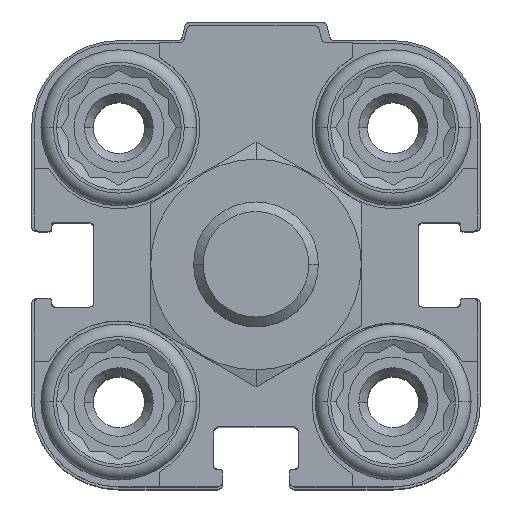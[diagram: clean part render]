
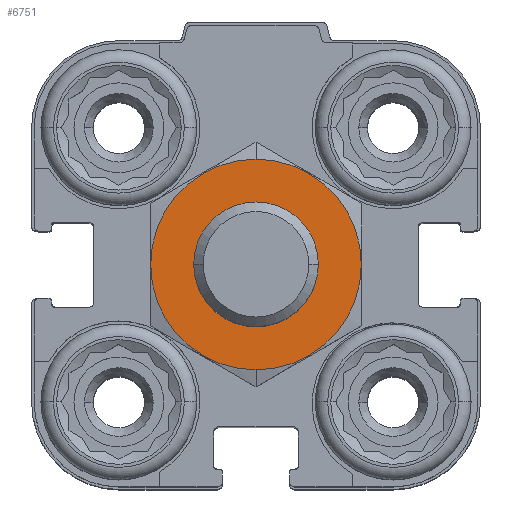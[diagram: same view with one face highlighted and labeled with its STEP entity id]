
A CAD part, top view. The second image highlights one B-rep face of the part: STEP entity #6751.
In plain terms, the highlighted planar face has unit normal (0, 0, 1).
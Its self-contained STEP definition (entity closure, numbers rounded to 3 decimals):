
#689 = EDGE_CURVE ( 'NONE', #7979, #7246, #20287, .T. ) ;
#1109 = EDGE_CURVE ( 'NONE', #4879, #10581, #6277, .T. ) ;
#1960 = EDGE_CURVE ( 'NONE', #10581, #4879, #6177, .T. ) ;
#2868 = AXIS2_PLACEMENT_3D ( 'NONE', #10316, #8781, #3966 ) ;
#3364 = CARTESIAN_POINT ( 'NONE',  ( 0., -8.45, 13.5 ) ) ;
#3454 = AXIS2_PLACEMENT_3D ( 'NONE', #13695, #5793, #7240 ) ;
#3966 = DIRECTION ( 'NONE',  ( 0., -1., 0. ) ) ;
#3995 = ORIENTED_EDGE ( 'NONE', *, *, #12526, .F. ) ;
#4879 = VERTEX_POINT ( 'NONE', #6260 ) ;
#5047 = DIRECTION ( 'NONE',  ( 0., 0., -1. ) ) ;
#5793 = DIRECTION ( 'NONE',  ( 0., 0., -1. ) ) ;
#5907 = CIRCLE ( 'NONE', #13466, 8.45 ) ;
#6177 = CIRCLE ( 'NONE', #17667, 5. ) ;
#6260 = CARTESIAN_POINT ( 'NONE',  ( 0., 5., 13.5 ) ) ;
#6277 = CIRCLE ( 'NONE', #12170, 5. ) ;
#6751 = ADVANCED_FACE ( 'NONE', ( #10305, #19792 ), #16590, .F. ) ;
#7240 = DIRECTION ( 'NONE',  ( 0., -1., 0. ) ) ;
#7246 = VERTEX_POINT ( 'NONE', #3364 ) ;
#7979 = VERTEX_POINT ( 'NONE', #18146 ) ;
#8227 = DIRECTION ( 'NONE',  ( 0., -1., 0. ) ) ;
#8559 = DIRECTION ( 'NONE',  ( 0., 0., -1. ) ) ;
#8781 = DIRECTION ( 'NONE',  ( 0., 0., -1. ) ) ;
#9283 = EDGE_LOOP ( 'NONE', ( #17451, #9602 ) ) ;
#9602 = ORIENTED_EDGE ( 'NONE', *, *, #1960, .T. ) ;
#10305 = FACE_OUTER_BOUND ( 'NONE', #10515, .T. ) ;
#10316 = CARTESIAN_POINT ( 'NONE',  ( 0., 0., 13.5 ) ) ;
#10515 = EDGE_LOOP ( 'NONE', ( #3995, #15366 ) ) ;
#10581 = VERTEX_POINT ( 'NONE', #12011 ) ;
#11634 = CARTESIAN_POINT ( 'NONE',  ( 0., 0., 13.5 ) ) ;
#11741 = DIRECTION ( 'NONE',  ( 0., 0., -1. ) ) ;
#12011 = CARTESIAN_POINT ( 'NONE',  ( 0., -5., 13.5 ) ) ;
#12170 = AXIS2_PLACEMENT_3D ( 'NONE', #11634, #8559, #19570 ) ;
#12526 = EDGE_CURVE ( 'NONE', #7246, #7979, #5907, .T. ) ;
#13284 = DIRECTION ( 'NONE',  ( 0., -1., 0. ) ) ;
#13466 = AXIS2_PLACEMENT_3D ( 'NONE', #14724, #11741, #13284 ) ;
#13695 = CARTESIAN_POINT ( 'NONE',  ( 0., 0., 13.5 ) ) ;
#14724 = CARTESIAN_POINT ( 'NONE',  ( 0., 0., 13.5 ) ) ;
#15366 = ORIENTED_EDGE ( 'NONE', *, *, #689, .F. ) ;
#16362 = CARTESIAN_POINT ( 'NONE',  ( 0., 0., 13.5 ) ) ;
#16590 = PLANE ( 'NONE',  #3454 ) ;
#17451 = ORIENTED_EDGE ( 'NONE', *, *, #1109, .T. ) ;
#17667 = AXIS2_PLACEMENT_3D ( 'NONE', #16362, #5047, #8227 ) ;
#18146 = CARTESIAN_POINT ( 'NONE',  ( 0., 8.45, 13.5 ) ) ;
#19570 = DIRECTION ( 'NONE',  ( 0., -1., 0. ) ) ;
#19792 = FACE_BOUND ( 'NONE', #9283, .T. ) ;
#20287 = CIRCLE ( 'NONE', #2868, 8.45 ) ;
